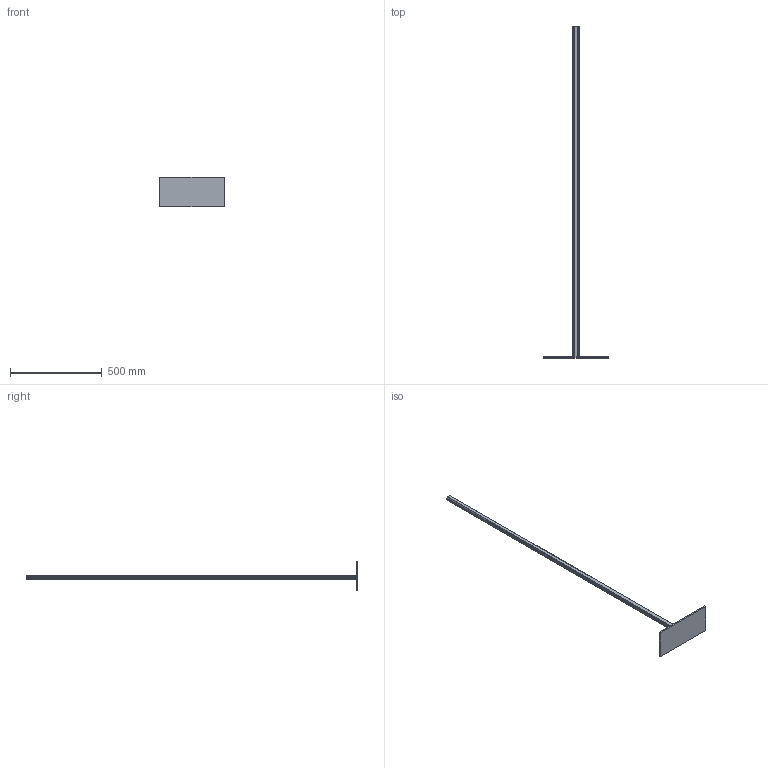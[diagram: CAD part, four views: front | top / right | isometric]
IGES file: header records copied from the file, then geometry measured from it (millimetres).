
Start section: SolidWorks IGES file using analytic representation for surfaces
Global section: file name: C:\Users\libre2.DOMINIO\Desktop\CARPYEN\3D\GABRIEL TEIXIDO\LINEAL\LINEAL_floor.IGS; native system: SolidWorks 2014; preprocessor: SolidWorks 2014; author: libre2; date: 160314.110801; units: millimetre
Bounding box: 350 x 1808 x 160 mm (x, y, z)
Surface area: 489739.2 mm2 (no closed solid volume)
Topology: 0 solids, 0 shells, 89 faces, 612 edges, 612 vertices
Faces by surface type: bspline 71, revolution 18
